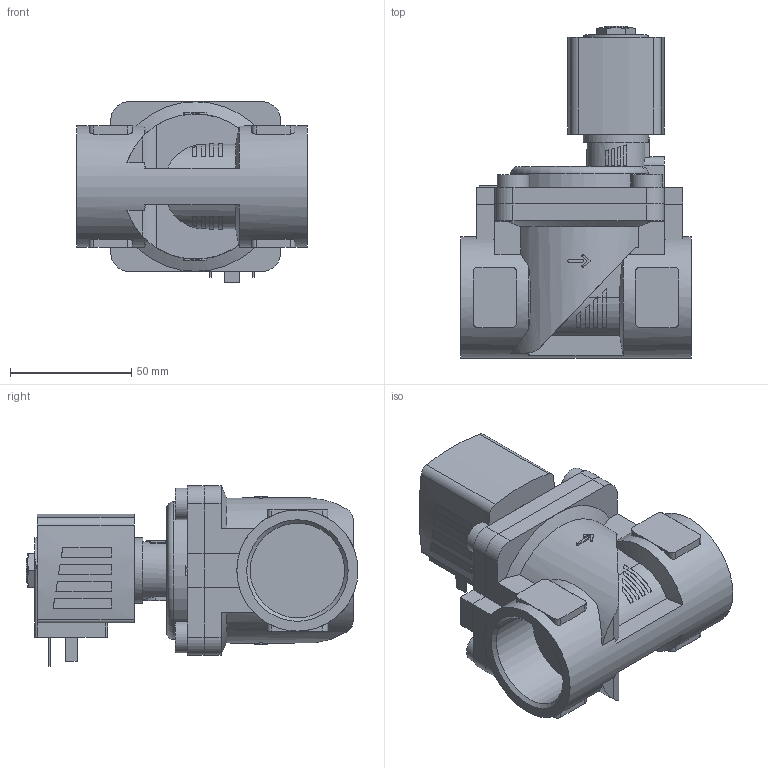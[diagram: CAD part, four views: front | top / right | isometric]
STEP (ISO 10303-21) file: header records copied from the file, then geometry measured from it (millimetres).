
FILE_DESCRIPTION(/* description */ ('STEP AP214'),/* implementation_level */ '2;1');
FILE_NAME(/* name */ '6281-261667-2_2-Way_Solenoid_Valve__Servo-assisted__General_Purpose',/* time_stamp */ '2024-08-27T16:10:39+02:00',/* author */ ('License CC BY-ND 4.0'),/* organization */ ('CADENAS'),/* preprocessor_version */ 'ST-DEVELOPER v19.3',/* originating_system */ 'PARTsolutions',/* authorisation */ ' ');
FILE_SCHEMA (('AUTOMOTIVE_DESIGN {1 0 10303 214 3 1 1}'));
Length unit declared in the file: millimetre
Products named in the file (4): 6281-261667-2/2-Way Solenoid Valve, Servo-assisted, General Purpose; 5281ev250VA2/2-Wege-Magnetventil mit Servomembran-Deckel   ; 6213-25G1_1/4VA-Gehaeuse-; AC10ex-6NA38-Plan-Coil
Assembly tree (3 placements, depth 2):
  6281-261667-2/2-Way Solenoid Valve, Servo-assisted, General Purpose
    5281ev250VA2/2-Wege-Magnetventil mit Servomembran-Deckel   
    6213-25G1_1/4VA-Gehaeuse-
    AC10ex-6NA38-Plan-Coil
Bounding box: 95 x 137 x 74.5 mm (x, y, z)
Volume: 345094.1 mm3; surface area: 62169.1 mm2
Topology: 3 solids, 3 shells, 345 faces, 886 edges, 584 vertices
Faces by surface type: plane 242, cylinder 85, cone 17, torus 1
Full cylindrical faces by diameter (mm): 2.013 x1, 9.74 x1, 13 x4, 27 x1, 38.952 x2, 50 x1
Entity records: 11740 total; most frequent: CARTESIAN_POINT 2066, DIRECTION 1738, ORIENTED_EDGE 1724, EDGE_CURVE 862, AXIS2_PLACEMENT_3D 600, VERTEX_POINT 576, LINE 538, VECTOR 538
